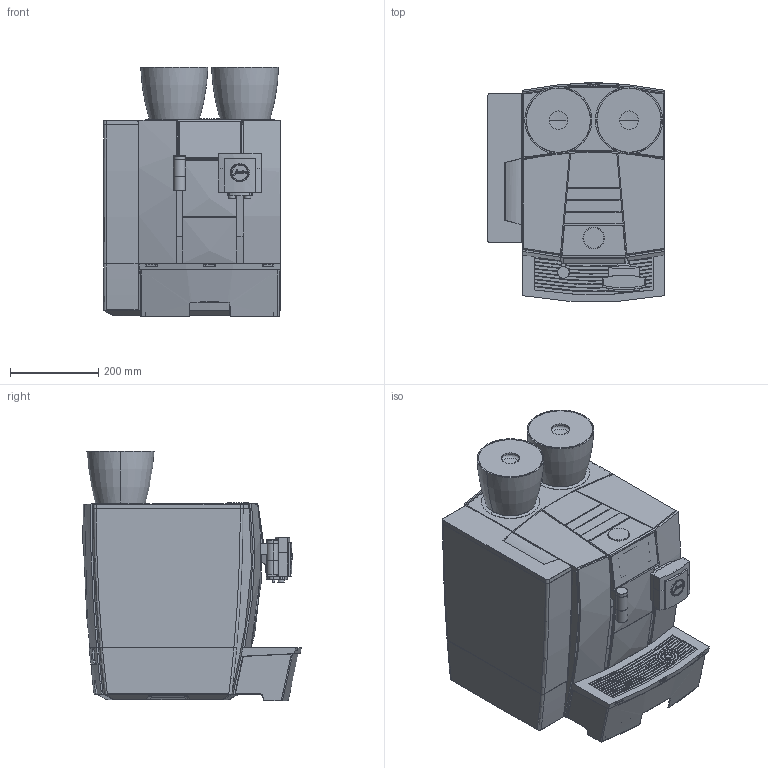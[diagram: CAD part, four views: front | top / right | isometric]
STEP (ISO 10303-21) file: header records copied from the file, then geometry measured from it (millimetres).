
FILE_DESCRIPTION (( 'STEP AP214' ), '1' );
FILE_NAME ('GIGA_X8_GII.STEP', '2017-09-15T09:13:08', ( '' ), ( '' ), 'SwSTEP 2.0', 'SolidWorks 2015', '' );
FILE_SCHEMA (( 'AUTOMOTIVE_DESIGN' ));
Length unit declared in the file: millimetre
Products named in the file (1): GIGA_X8_GII
Bounding box: 400 x 494.67 x 565.51 mm (x, y, z)
Volume: 56345016 mm3; surface area: 3437039.8 mm2
Topology: 54 solids, 61 shells, 1708 faces, 4430 edges, 2877 vertices
Faces by surface type: bspline 676, plane 533, cylinder 308, cone 78, torus 60, sphere 53
Full cylindrical faces by diameter (mm): 6 x1, 6.2 x2, 12 x1, 15 x2, 26 x1, 27.5 x1, 39 x2, 39.3 x1, 39.5 x1, 41 x1, 41.5 x1, 46.2 x1, 49 x1, 56.7 x1, 132.5 x2
Entity records: 72174 total; most frequent: CARTESIAN_POINT 35335, ORIENTED_EDGE 8658, DIRECTION 5328, EDGE_CURVE 4329, VERTEX_POINT 2830, AXIS2_PLACEMENT_3D 1843, EDGE_LOOP 1837, B_SPLINE_CURVE_WITH_KNOTS 1786
